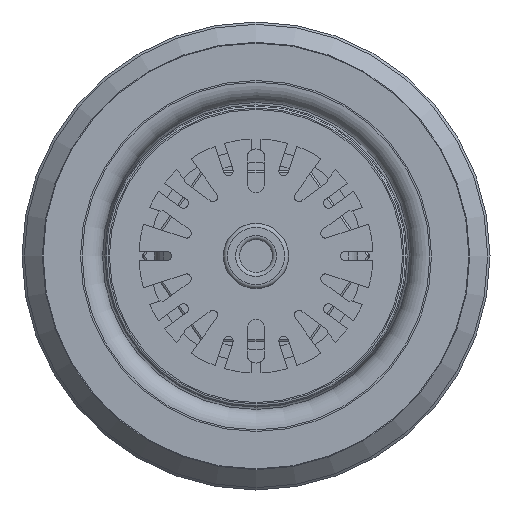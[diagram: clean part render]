
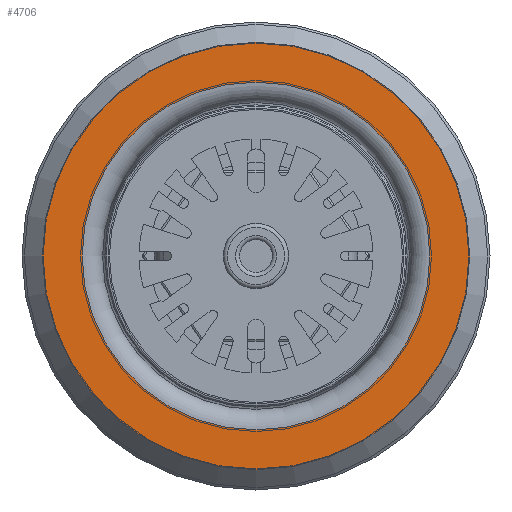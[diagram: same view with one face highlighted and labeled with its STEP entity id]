
A CAD part, front view. The second image highlights one B-rep face of the part: STEP entity #4706.
In plain terms, the highlighted planar face has unit normal (0, -1, 0).
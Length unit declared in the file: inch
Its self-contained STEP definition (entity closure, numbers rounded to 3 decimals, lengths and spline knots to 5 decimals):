
#904=FACE_BOUND('',#1407,.T.);
#1145=FACE_OUTER_BOUND('',#1406,.T.);
#1406=EDGE_LOOP('',(#4053,#4054));
#1407=EDGE_LOOP('',(#4055,#4056));
#1669=CIRCLE('',#5223,1.06813);
#1670=CIRCLE('',#5224,1.06813);
#1671=CIRCLE('',#5226,1.3125);
#1672=CIRCLE('',#5227,1.3125);
#2102=VERTEX_POINT('',#8329);
#2103=VERTEX_POINT('',#8331);
#2104=VERTEX_POINT('',#8335);
#2105=VERTEX_POINT('',#8336);
#2757=EDGE_CURVE('',#2102,#2103,#1669,.T.);
#2758=EDGE_CURVE('',#2103,#2102,#1670,.T.);
#2759=EDGE_CURVE('',#2104,#2105,#1671,.T.);
#2760=EDGE_CURVE('',#2105,#2104,#1672,.T.);
#4053=ORIENTED_EDGE('',*,*,#2759,.T.);
#4054=ORIENTED_EDGE('',*,*,#2760,.T.);
#4055=ORIENTED_EDGE('',*,*,#2758,.F.);
#4056=ORIENTED_EDGE('',*,*,#2757,.F.);
#4216=PLANE('',#5225);
#4706=ADVANCED_FACE('',(#1145,#904),#4216,.T.);
#5223=AXIS2_PLACEMENT_3D('',#8332,#6571,#6572);
#5224=AXIS2_PLACEMENT_3D('',#8333,#6573,#6574);
#5225=AXIS2_PLACEMENT_3D('',#8334,#6575,#6576);
#5226=AXIS2_PLACEMENT_3D('',#8337,#6577,#6578);
#5227=AXIS2_PLACEMENT_3D('',#8338,#6579,#6580);
#6571=DIRECTION('center_axis',(0.,-1.,0.));
#6572=DIRECTION('ref_axis',(1.,0.,0.));
#6573=DIRECTION('center_axis',(0.,-1.,0.));
#6574=DIRECTION('ref_axis',(1.,0.,0.));
#6575=DIRECTION('center_axis',(0.,-1.,0.));
#6576=DIRECTION('ref_axis',(-1.,0.,0.));
#6577=DIRECTION('center_axis',(0.,-1.,0.));
#6578=DIRECTION('ref_axis',(1.,0.,0.));
#6579=DIRECTION('center_axis',(0.,-1.,0.));
#6580=DIRECTION('ref_axis',(1.,0.,0.));
#8329=CARTESIAN_POINT('',(1.06813,1.05,0.));
#8331=CARTESIAN_POINT('',(-1.06813,1.05,0.));
#8332=CARTESIAN_POINT('Origin',(0.,1.05,0.));
#8333=CARTESIAN_POINT('Origin',(0.,1.05,0.));
#8334=CARTESIAN_POINT('Origin',(-1.06813,1.05,0.));
#8335=CARTESIAN_POINT('',(-1.3125,1.05,0.));
#8336=CARTESIAN_POINT('',(1.3125,1.05,0.));
#8337=CARTESIAN_POINT('Origin',(0.,1.05,0.));
#8338=CARTESIAN_POINT('Origin',(0.,1.05,0.));
